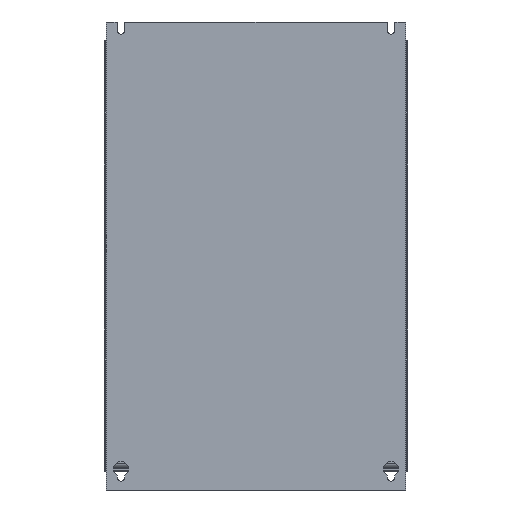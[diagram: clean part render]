
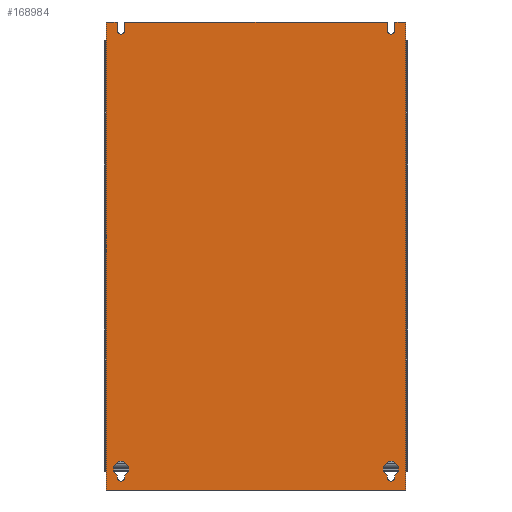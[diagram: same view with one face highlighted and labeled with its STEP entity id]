
A CAD part, front view. The second image highlights one B-rep face of the part: STEP entity #168984.
In plain terms, the highlighted planar face has unit normal (0, -1, 0).
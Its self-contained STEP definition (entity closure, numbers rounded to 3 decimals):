
#138441=DIRECTION('',(0.,0.,1.));
#138442=VECTOR('',#138441,555.);
#138443=CARTESIAN_POINT('',(355.,0.,-555.));
#138444=LINE('',#138443,#138442);
#142452=DIRECTION('',(-1.,0.,0.));
#142453=VECTOR('',#142452,13.);
#142454=CARTESIAN_POINT('',(355.,0.,0.));
#142455=LINE('',#142454,#142453);
#142466=DIRECTION('',(0.,0.,1.));
#142467=VECTOR('',#142466,10.);
#142468=CARTESIAN_POINT('',(342.,0.,-10.));
#142469=LINE('',#142468,#142467);
#142473=CARTESIAN_POINT('',(17.5,0.,-10.));
#142474=DIRECTION('',(0.,-1.,0.));
#142475=DIRECTION('',(-1.,0.,0.));
#142476=AXIS2_PLACEMENT_3D('',#142473,#142474,#142475);
#142481=DIRECTION('',(0.,0.,1.));
#142482=VECTOR('',#142481,10.);
#142483=CARTESIAN_POINT('',(22.,0.,-10.));
#142484=LINE('',#142483,#142482);
#142488=CARTESIAN_POINT('',(337.5,0.,-10.));
#142489=DIRECTION('',(0.,-1.,0.));
#142490=DIRECTION('',(-1.,0.,0.));
#142491=AXIS2_PLACEMENT_3D('',#142488,#142489,#142490);
#142496=CARTESIAN_POINT('',(17.5,0.,-530.));
#142497=DIRECTION('',(0.,-1.,0.));
#142498=DIRECTION('',(0.5,0.,-0.866));
#142499=AXIS2_PLACEMENT_3D('',#142496,#142497,#142498);
#142504=CARTESIAN_POINT('',(17.5,0.,-530.));
#142505=DIRECTION('',(0.,-1.,0.));
#142506=DIRECTION('',(0.5,0.,0.866));
#142507=AXIS2_PLACEMENT_3D('',#142504,#142505,#142506);
#142512=CARTESIAN_POINT('',(17.5,0.,-540.));
#142513=DIRECTION('',(0.,-1.,0.));
#142514=DIRECTION('',(-1.,0.,0.));
#142515=AXIS2_PLACEMENT_3D('',#142512,#142513,#142514);
#142520=CARTESIAN_POINT('',(337.5,0.,-530.));
#142521=DIRECTION('',(0.,-1.,0.));
#142522=DIRECTION('',(0.5,0.,-0.866));
#142523=AXIS2_PLACEMENT_3D('',#142520,#142521,#142522);
#142528=CARTESIAN_POINT('',(337.5,0.,-530.));
#142529=DIRECTION('',(0.,-1.,0.));
#142530=DIRECTION('',(0.5,0.,0.866));
#142531=AXIS2_PLACEMENT_3D('',#142528,#142529,#142530);
#142536=CARTESIAN_POINT('',(337.5,0.,-540.));
#142537=DIRECTION('',(0.,-1.,0.));
#142538=DIRECTION('',(-1.,0.,0.));
#142539=AXIS2_PLACEMENT_3D('',#142536,#142537,#142538);
#142572=DIRECTION('',(0.,0.,1.));
#142573=VECTOR('',#142572,10.);
#142574=CARTESIAN_POINT('',(333.,0.,-10.));
#142575=LINE('',#142574,#142573);
#142579=DIRECTION('',(-1.,0.,0.));
#142580=VECTOR('',#142579,311.);
#142581=CARTESIAN_POINT('',(333.,0.,0.));
#142582=LINE('',#142581,#142580);
#142621=DIRECTION('',(0.,0.,1.));
#142622=VECTOR('',#142621,10.);
#142623=CARTESIAN_POINT('',(13.,0.,-10.));
#142624=LINE('',#142623,#142622);
#142628=DIRECTION('',(-1.,0.,0.));
#142629=VECTOR('',#142628,13.);
#142630=CARTESIAN_POINT('',(13.,0.,0.));
#142631=LINE('',#142630,#142629);
#142734=DIRECTION('',(0.,0.,-1.));
#142735=VECTOR('',#142734,555.);
#142736=CARTESIAN_POINT('',(0.,0.,0.));
#142737=LINE('',#142736,#142735);
#143045=DIRECTION('',(1.,0.,0.));
#143046=VECTOR('',#143045,355.);
#143047=CARTESIAN_POINT('',(0.,0.,-555.));
#143048=LINE('',#143047,#143046);
#155374=DIRECTION('',(0.,0.,-1.));
#155375=VECTOR('',#155374,2.206);
#155376=CARTESIAN_POINT('',(342.,0.,-537.794));
#155377=LINE('',#155376,#155375);
#155395=DIRECTION('',(0.,0.,1.));
#155396=VECTOR('',#155395,2.206);
#155397=CARTESIAN_POINT('',(333.,0.,-540.));
#155398=LINE('',#155397,#155396);
#155416=DIRECTION('',(0.,0.,-1.));
#155417=VECTOR('',#155416,2.206);
#155418=CARTESIAN_POINT('',(22.,0.,-537.794));
#155419=LINE('',#155418,#155417);
#155437=DIRECTION('',(0.,0.,1.));
#155438=VECTOR('',#155437,2.206);
#155439=CARTESIAN_POINT('',(13.,0.,-540.));
#155440=LINE('',#155439,#155438);
#162728=CARTESIAN_POINT('',(355.,0.,-555.));
#162729=VERTEX_POINT('',#162728);
#162730=CARTESIAN_POINT('',(355.,0.,0.));
#162731=VERTEX_POINT('',#162730);
#164966=CARTESIAN_POINT('',(342.,0.,0.));
#164967=VERTEX_POINT('',#164966);
#164970=CARTESIAN_POINT('',(342.,0.,-10.));
#164971=VERTEX_POINT('',#164970);
#164972=CARTESIAN_POINT('',(0.,0.,-555.));
#164973=VERTEX_POINT('',#164972);
#164974=CARTESIAN_POINT('',(0.,0.,0.));
#164975=VERTEX_POINT('',#164974);
#164976=CARTESIAN_POINT('',(13.,0.,0.));
#164977=VERTEX_POINT('',#164976);
#164978=CARTESIAN_POINT('',(13.,0.,-10.));
#164979=VERTEX_POINT('',#164978);
#164980=CARTESIAN_POINT('',(22.,0.,-10.));
#164981=VERTEX_POINT('',#164980);
#164982=CARTESIAN_POINT('',(22.,0.,0.));
#164983=VERTEX_POINT('',#164982);
#164984=CARTESIAN_POINT('',(333.,0.,0.));
#164985=VERTEX_POINT('',#164984);
#164986=CARTESIAN_POINT('',(333.,0.,-10.));
#164987=VERTEX_POINT('',#164986);
#164988=CARTESIAN_POINT('',(22.,0.,-537.794));
#164989=CARTESIAN_POINT('',(22.,0.,-540.));
#164990=VERTEX_POINT('',#164988);
#164991=VERTEX_POINT('',#164989);
#164992=CARTESIAN_POINT('',(22.,0.,-522.206));
#164993=CARTESIAN_POINT('',(13.,0.,-537.794));
#164994=VERTEX_POINT('',#164992);
#164995=VERTEX_POINT('',#164993);
#164996=CARTESIAN_POINT('',(13.,0.,-540.));
#164997=VERTEX_POINT('',#164996);
#164998=CARTESIAN_POINT('',(342.,0.,-537.794));
#164999=CARTESIAN_POINT('',(342.,0.,-540.));
#165000=VERTEX_POINT('',#164998);
#165001=VERTEX_POINT('',#164999);
#165002=CARTESIAN_POINT('',(342.,0.,-522.206));
#165003=CARTESIAN_POINT('',(333.,0.,-537.794));
#165004=VERTEX_POINT('',#165002);
#165005=VERTEX_POINT('',#165003);
#165006=CARTESIAN_POINT('',(333.,0.,-540.));
#165007=VERTEX_POINT('',#165006);
#168931=CARTESIAN_POINT('',(0.,0.,0.));
#168932=DIRECTION('',(0.,1.,0.));
#168933=DIRECTION('',(1.,0.,0.));
#168934=AXIS2_PLACEMENT_3D('',#168931,#168932,#168933);
#168935=PLANE('',#168934);
#168937=ORIENTED_EDGE('',*,*,#168936,.T.);
#168938=ORIENTED_EDGE('',*,*,#168921,.F.);
#168939=ORIENTED_EDGE('',*,*,#167325,.F.);
#168941=ORIENTED_EDGE('',*,*,#168940,.F.);
#168943=ORIENTED_EDGE('',*,*,#168942,.F.);
#168945=ORIENTED_EDGE('',*,*,#168944,.F.);
#168947=ORIENTED_EDGE('',*,*,#168946,.F.);
#168949=ORIENTED_EDGE('',*,*,#168948,.T.);
#168951=ORIENTED_EDGE('',*,*,#168950,.T.);
#168953=ORIENTED_EDGE('',*,*,#168952,.F.);
#168955=ORIENTED_EDGE('',*,*,#168954,.F.);
#168957=ORIENTED_EDGE('',*,*,#168956,.T.);
#168958=EDGE_LOOP('',(#168937,#168938,#168939,#168941,#168943,#168945,#168947,
#168949,#168951,#168953,#168955,#168957));
#168959=FACE_OUTER_BOUND('',#168958,.F.);
#168961=ORIENTED_EDGE('',*,*,#168960,.F.);
#168963=ORIENTED_EDGE('',*,*,#168962,.T.);
#168965=ORIENTED_EDGE('',*,*,#168964,.T.);
#168967=ORIENTED_EDGE('',*,*,#168966,.F.);
#168969=ORIENTED_EDGE('',*,*,#168968,.T.);
#168970=EDGE_LOOP('',(#168961,#168963,#168965,#168967,#168969));
#168971=FACE_BOUND('',#168970,.F.);
#168973=ORIENTED_EDGE('',*,*,#168972,.F.);
#168975=ORIENTED_EDGE('',*,*,#168974,.T.);
#168977=ORIENTED_EDGE('',*,*,#168976,.T.);
#168979=ORIENTED_EDGE('',*,*,#168978,.F.);
#168981=ORIENTED_EDGE('',*,*,#168980,.T.);
#168982=EDGE_LOOP('',(#168973,#168975,#168977,#168979,#168981));
#168983=FACE_BOUND('',#168982,.F.);
#168984=ADVANCED_FACE('',(#168959,#168971,#168983),#168935,.F.);
#142477=CIRCLE('',#142476,4.5);
#142492=CIRCLE('',#142491,4.5);
#142500=CIRCLE('',#142499,9.);
#142508=CIRCLE('',#142507,9.);
#142516=CIRCLE('',#142515,4.5);
#142524=CIRCLE('',#142523,9.);
#142532=CIRCLE('',#142531,9.);
#142540=CIRCLE('',#142539,4.5);
#167325=EDGE_CURVE('',#162729,#162731,#138444,.T.);
#168921=EDGE_CURVE('',#162731,#164967,#142455,.T.);
#168936=EDGE_CURVE('',#164971,#164967,#142469,.T.);
#168940=EDGE_CURVE('',#164973,#162729,#143048,.T.);
#168942=EDGE_CURVE('',#164975,#164973,#142737,.T.);
#168944=EDGE_CURVE('',#164977,#164975,#142631,.T.);
#168946=EDGE_CURVE('',#164979,#164977,#142624,.T.);
#168948=EDGE_CURVE('',#164979,#164981,#142477,.T.);
#168950=EDGE_CURVE('',#164981,#164983,#142484,.T.);
#168952=EDGE_CURVE('',#164985,#164983,#142582,.T.);
#168954=EDGE_CURVE('',#164987,#164985,#142575,.T.);
#168956=EDGE_CURVE('',#164987,#164971,#142492,.T.);
#168960=EDGE_CURVE('',#164990,#164991,#155419,.T.);
#168962=EDGE_CURVE('',#164990,#164994,#142500,.T.);
#168964=EDGE_CURVE('',#164994,#164995,#142508,.T.);
#168966=EDGE_CURVE('',#164997,#164995,#155440,.T.);
#168968=EDGE_CURVE('',#164997,#164991,#142516,.T.);
#168972=EDGE_CURVE('',#165000,#165001,#155377,.T.);
#168974=EDGE_CURVE('',#165000,#165004,#142524,.T.);
#168976=EDGE_CURVE('',#165004,#165005,#142532,.T.);
#168978=EDGE_CURVE('',#165007,#165005,#155398,.T.);
#168980=EDGE_CURVE('',#165007,#165001,#142540,.T.);
